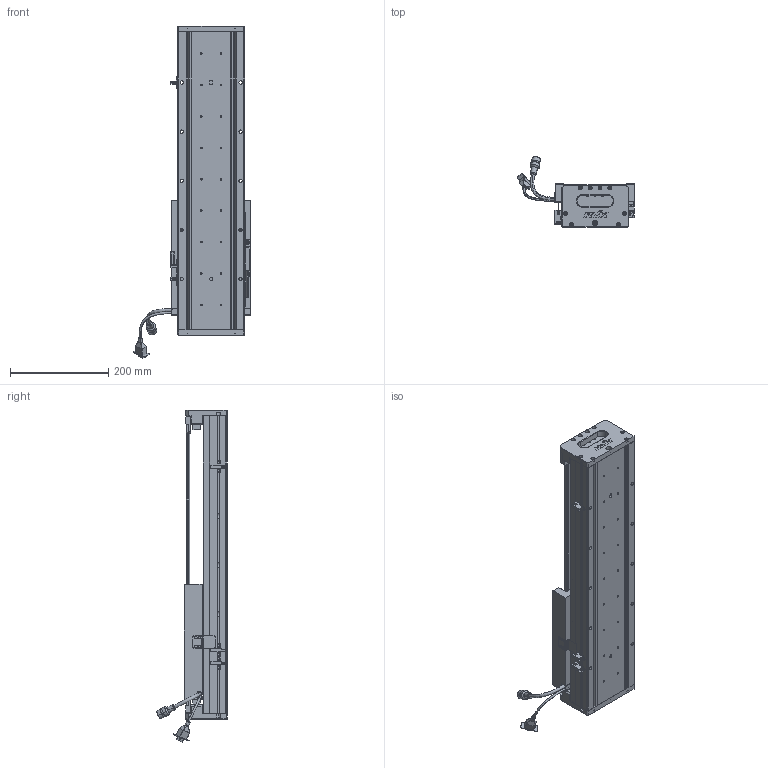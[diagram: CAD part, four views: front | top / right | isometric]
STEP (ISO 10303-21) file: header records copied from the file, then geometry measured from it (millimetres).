
FILE_DESCRIPTION (( 'STEP AP203' ), '1' );
FILE_NAME ('Z3-RY140D-1-L500-B-K.SLDASM_0300.step', '2021-05-17T08:00:01', ( '盈信电脑' ), ( '东莞市道滘镇水果街19号' ), 'SwSTEP 2.0', 'SolidWorks 2016', '' );
FILE_SCHEMA (( 'CONFIG_CONTROL_DESIGN' ));
Length unit declared in the file: millimetre
Products named in the file (36): Z-RY140詩湍奻揤裔; PSLH080_PSLF2; SEAL; Z3-RY140-L500直线电机模组底座_0300; 140雄赽晤鎢ん堤盄; SCALE-Part-2; SCREW-M1.6-2; HOLDER0; 140-Z-臏賑輸盄裔(21遴); Z3-RY140D-1-L500-B-K.SLDASM_0300; SCREW-M1.7; Z-RY140感应器672光电感应片; 覜茼ん672; 080黍杅芛假蚾釱21遴; PBU_SHEET; SHIELDPLATE; HARNESS; SCREW-M1.6; Z-RY140詩湍狟揤裔; SCREW-M1.6-3; Z-140詩湍傷裔啣; SCREW-M1.7-1; Z3-RY140圉猾敕臏賑輸(21遴); Z3-RY140-L500詩湍100mm遵_0300; COVER-Part-1; COVER; HARNESS-Part-1; LABEL; 140蚥薯蝶輸; SCREW-M1.6-1; HARNESS-Part-2; LABEL-Part-1; SCALE; SEAL-Part-1; 榋妏寠巭燃_暯_M2_2; SCALE-Part-1
Assembly tree (41 placements, depth 4):
  Z3-RY140D-1-L500-B-K.SLDASM_0300
    Z3-RY140-L500直线电机模组底座_0300
    Z-RY140感应器672光电感应片
    Z3-RY140圉猾敕臏賑輸(21遴)
    覜茼ん672  x3
    Z3-RY140-L500詩湍100mm遵_0300
    PSLH080_PSLF2
      SCALE
        SCALE-Part-1
        SCALE-Part-2
      HARNESS
        HARNESS-Part-1
        HARNESS-Part-2
      LABEL
        LABEL-Part-1
      COVER
        COVER-Part-1
      SEAL
        SEAL-Part-1
      榋妏寠巭燃_暯_M2_2
      SHIELDPLATE
      SCREW-M1.7
      SCREW-M1.7-1
      PBU_SHEET
      SCREW-M1.6
      SCREW-M1.6-1
      SCREW-M1.6-2
      SCREW-M1.6-3
      HOLDER0
    080黍杅芛假蚾釱21遴
    140-Z-臏賑輸盄裔(21遴)
    Z-140詩湍傷裔啣  x2
    Z-RY140詩湍狟揤裔  x2
    Z-RY140詩湍奻揤裔  x2
    140蚥薯蝶輸  x2
    140雄赽晤鎢ん堤盄
Bounding box: 239.84 x 143.88 x 675.88 mm (x, y, z)
Volume: 2918288.9 mm3; surface area: 743015.7 mm2
Topology: 36 solids, 36 shells, 2620 faces, 6800 edges, 4299 vertices
Faces by surface type: cylinder 1154, plane 1074, cone 270, torus 69, bspline 53
Entity records: 73724 total; most frequent: CARTESIAN_POINT 17363, DIRECTION 11072, ORIENTED_EDGE 10784, EDGE_CURVE 5392, AXIS2_PLACEMENT_3D 4056, VERTEX_POINT 3467, VECTOR 2960, LINE 2960
